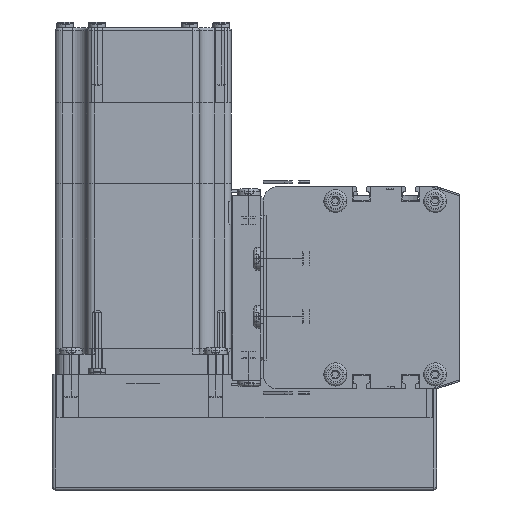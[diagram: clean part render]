
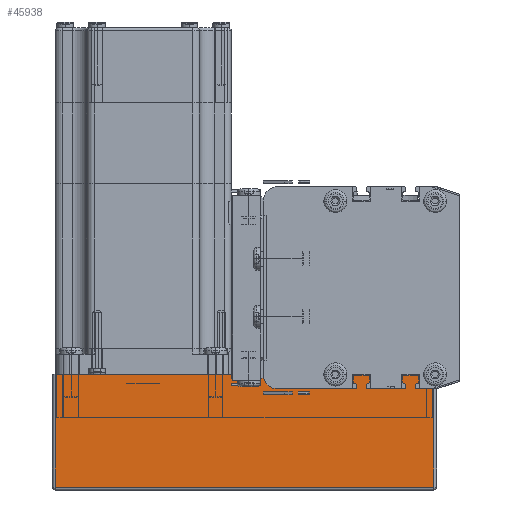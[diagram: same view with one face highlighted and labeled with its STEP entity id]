
A CAD part, left-side view. The second image highlights one B-rep face of the part: STEP entity #45938.
In plain terms, the highlighted planar face has unit normal (-1, 0, 0) as drawn and (0, 1, 0) by its records, which use the part's own axes.
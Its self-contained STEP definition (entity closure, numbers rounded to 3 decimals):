
#23919 = VERTEX_POINT ( 'NONE', #153465 ) ;
#23942 = EDGE_CURVE ( 'NONE', #23919, #23952, #153544, .T. ) ;
#23952 = VERTEX_POINT ( 'NONE', #153540 ) ;
#41336 = EDGE_LOOP ( 'NONE', ( #46423, #45984, #45554, #45179 ) ) ;
#42160 = VERTEX_POINT ( 'NONE', #54180 ) ;
#42701 = VERTEX_POINT ( 'NONE', #54277 ) ;
#45179 = ORIENTED_EDGE ( 'NONE', *, *, #46464, .T. ) ;
#45554 = ORIENTED_EDGE ( 'NONE', *, *, #23942, .T. ) ;
#45938 = ADVANCED_FACE ( 'NONE', ( #57312 ), #57143, .F. ) ;
#45984 = ORIENTED_EDGE ( 'NONE', *, *, #46008, .T. ) ;
#46008 = EDGE_CURVE ( 'NONE', #42701, #23919, #57166, .T. ) ;
#46411 = EDGE_CURVE ( 'NONE', #42160, #42701, #57613, .T. ) ;
#46423 = ORIENTED_EDGE ( 'NONE', *, *, #46411, .T. ) ;
#46464 = EDGE_CURVE ( 'NONE', #23952, #42160, #57599, .T. ) ;
#54180 = CARTESIAN_POINT ( 'NONE',  ( 1., 62., 39. ) ) ;
#54277 = CARTESIAN_POINT ( 'NONE',  ( 132., 62., 39. ) ) ;
#57136 = AXIS2_PLACEMENT_3D ( 'NONE', #57306, #57217, #57353 ) ;
#57143 = PLANE ( 'NONE',  #57136 ) ;
#57166 = LINE ( 'NONE', #57301, #57347 ) ;
#57217 = DIRECTION ( 'NONE',  ( 0., -1., 0. ) ) ;
#57300 = DIRECTION ( 'NONE',  ( 0., 0., -1. ) ) ;
#57301 = CARTESIAN_POINT ( 'NONE',  ( 132., 62., 40. ) ) ;
#57306 = CARTESIAN_POINT ( 'NONE',  ( 0., 62., 40. ) ) ;
#57312 = FACE_OUTER_BOUND ( 'NONE', #41336, .T. ) ;
#57347 = VECTOR ( 'NONE', #57300, 1000. ) ;
#57353 = DIRECTION ( 'NONE',  ( 0., 0., -1. ) ) ;
#57596 = DIRECTION ( 'NONE',  ( 0., 0., 1. ) ) ;
#57597 = VECTOR ( 'NONE', #57596, 1000. ) ;
#57598 = CARTESIAN_POINT ( 'NONE',  ( 1., 62., 40. ) ) ;
#57599 = LINE ( 'NONE', #57598, #57597 ) ;
#57607 = DIRECTION ( 'NONE',  ( 1., 0., 0. ) ) ;
#57608 = VECTOR ( 'NONE', #57607, 1000. ) ;
#57609 = CARTESIAN_POINT ( 'NONE',  ( 0., 62., 39. ) ) ;
#57613 = LINE ( 'NONE', #57609, #57608 ) ;
#153465 = CARTESIAN_POINT ( 'NONE',  ( 132., 62., 0. ) ) ;
#153540 = CARTESIAN_POINT ( 'NONE',  ( 1., 62., 0. ) ) ;
#153544 = LINE ( 'NONE', #153585, #153584 ) ;
#153583 = DIRECTION ( 'NONE',  ( -1., 0., 0. ) ) ;
#153584 = VECTOR ( 'NONE', #153583, 1000. ) ;
#153585 = CARTESIAN_POINT ( 'NONE',  ( 0., 62., 0. ) ) ;
